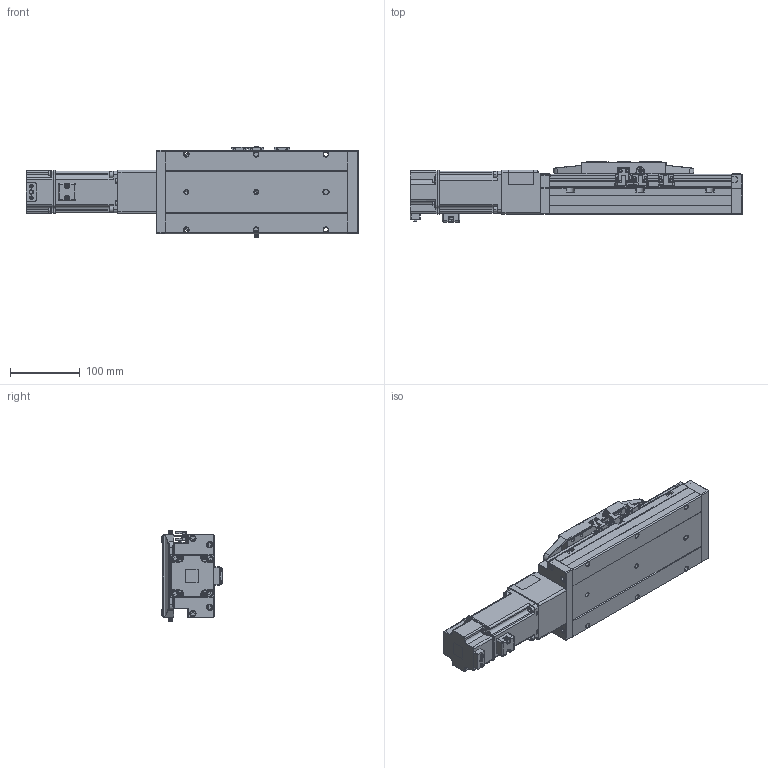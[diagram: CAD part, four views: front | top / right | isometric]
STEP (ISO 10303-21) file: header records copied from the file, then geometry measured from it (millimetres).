
FILE_DESCRIPTION (( 'STEP AP214' ), '1' );
FILE_NAME ('CTH12-L10-S50-BC-C40（简）.STEP', '2023-02-06T05:34:39', ( '' ), ( '' ), 'SwSTEP 2.0', 'SolidWorks 2018', '' );
FILE_SCHEMA (( 'AUTOMOTIVE_DESIGN' ));
Length unit declared in the file: millimetre
Products named in the file (23): CTH12-BC-06-T40（cth8-bc-06-t40-G）_1; 内六角圆柱头螺钉M3; CTH12-BC-03_1; CTH12-BL_body_4; hex nuts, style 1-grades ab gb_GB_FASTENER_NUT_SNAB1 M3-N; CTH12_body_3; CTH12-L10-S50-BC-C40（简）; CTH12; PM-Y45; 嫖萇羲壽郪磁1333; 内六角圆柱头螺钉M3-1; CTH12菁釱-L261潠; M5蹟隊; 400W萇儂; 嫖萇羲壽郪磁2; CTH嫖萇羲壽假蚾啣; 湮賑怢  裔赽-1(CTH12)賑怢; CTH12賑怢ㄗ潠ㄘ; CTH12萇儂釱; CTH12賑怢郪磁; 蚐郲; 内六角圆柱头螺钉M3-2; CTH12覜茼え
Assembly tree (43 placements, depth 4):
  CTH12-L10-S50-BC-C40（简）
    CTH12菁釱-L261潠
    蚐郲  x2
    CTH12-BL_body_4
    CTH12_body_3
    CTH12賑怢郪磁
      CTH12
        湮賑怢  裔赽-1(CTH12)賑怢
        CTH12賑怢ㄗ潠ㄘ
    CTH12覜茼え
    嫖萇羲壽郪磁2
      CTH嫖萇羲壽假蚾啣
      PM-Y45
      内六角圆柱头螺钉M3-1  x2
      内六角圆柱头螺钉M3-2  x2
      hex nuts, style 1-grades ab gb_GB_FASTENER_NUT_SNAB1 M3-N  x2
    CTH12萇儂釱
      CTH12-BC-03_1
      CTH12-BC-06-T40（cth8-bc-06-t40-G）_1
    嫖萇羲壽郪磁1333  x2
      CTH嫖萇羲壽假蚾啣
      PM-Y45
      内六角圆柱头螺钉M3-2
      内六角圆柱头螺钉M3-1
      hex nuts, style 1-grades ab gb_GB_FASTENER_NUT_SNAB1 M3-N
    内六角圆柱头螺钉M3  x6
    400W萇儂
    M5蹟隊  x4
Bounding box: 475.8 x 86.5 x 131.52 mm (x, y, z)
Volume: 2375521.1 mm3; surface area: 379401.4 mm2
Topology: 45 solids, 47 shells, 2681 faces, 6623 edges, 4167 vertices
Faces by surface type: plane 1344, cylinder 824, cone 263, torus 124, bspline 122, sphere 4
Entity records: 81928 total; most frequent: CARTESIAN_POINT 28166, ORIENTED_EDGE 10348, DIRECTION 10069, EDGE_CURVE 5174, AXIS2_PLACEMENT_3D 3525, VERTEX_POINT 3271, VECTOR 3019, LINE 3019
